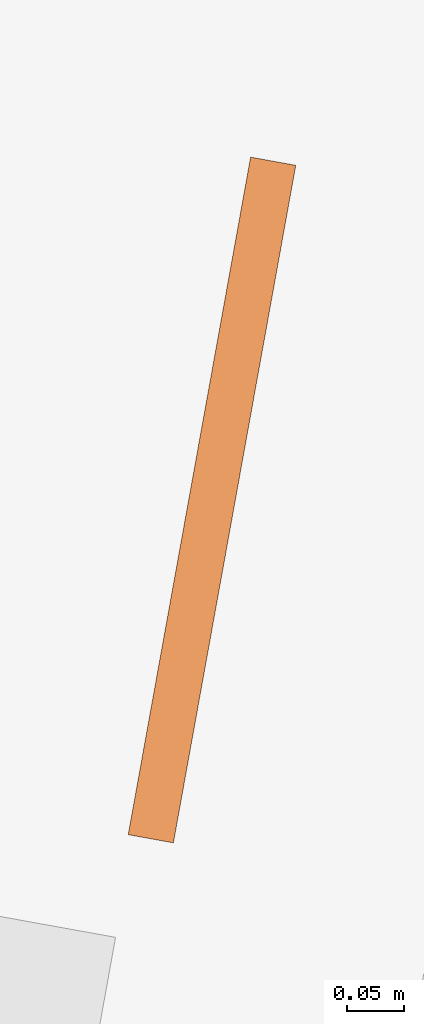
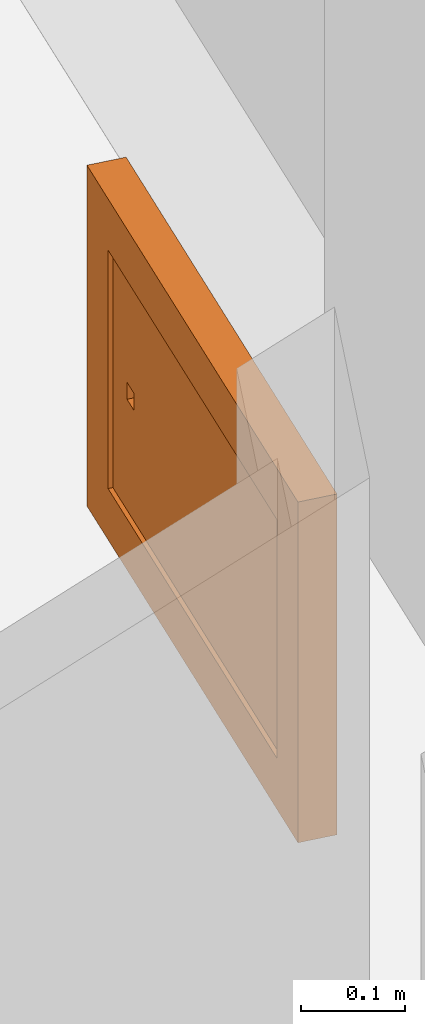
# One storey, part 52 of 52: 1 proxy.
"""IFC2X3 building model written with IfcOpenShell, lengths in metres."""

from ifc_helpers import new_model, entity, si_unit, converted_unit, derived_unit, money_unit, direction, frame, origin_with_axes, place, context, subcontext, project, spatial, open_shell, faceted_brep, surface_model, material, type_object, element, save


model = new_model("IFC2X3")

# Units and contexts
model_context = context("Model", 3, precision=1e-05, world=origin_with_axes(), true_north=direction((0.0, 1.0)))
body_context = subcontext(model_context, "Body", "Model", "MODEL_VIEW")
ifc_project = project(units=[si_unit("LENGTHUNIT", "METRE"), si_unit("AREAUNIT", "SQUARE_METRE"), si_unit("VOLUMEUNIT", "CUBIC_METRE"), converted_unit("PLANEANGLEUNIT", "DEGREE", entity("IfcPlaneAngleMeasure", 0.0174532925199), si_unit("PLANEANGLEUNIT", "RADIAN"), dimensions=[0, 0, 0, 0, 0, 0, 0]), money_unit("CHF"), converted_unit("TIMEUNIT", "Year", entity("IfcTimeMeasure", 31556926.0), si_unit("TIMEUNIT", "SECOND"), dimensions=[0, 0, 1, 0, 0, 0, 0]), si_unit("MASSUNIT", "GRAM", prefix="KILO"), si_unit("THERMODYNAMICTEMPERATUREUNIT", "DEGREE_CELSIUS"), si_unit("LUMINOUSINTENSITYUNIT", "LUMEN"), si_unit("ENERGYUNIT", "JOULE", prefix="MEGA"), derived_unit("THERMALCONDUCTANCEUNIT", [(si_unit("POWERUNIT", "WATT"), 1), (si_unit("LENGTHUNIT", "METRE"), -1), (si_unit("THERMODYNAMICTEMPERATUREUNIT", "KELVIN"), -1)]), derived_unit("SPECIFICHEATCAPACITYUNIT", [(si_unit("ENERGYUNIT", "JOULE"), 1), (si_unit("MASSUNIT", "GRAM", prefix="KILO"), -1), (si_unit("THERMODYNAMICTEMPERATUREUNIT", "KELVIN"), -1)]), derived_unit("MASSDENSITYUNIT", [(si_unit("MASSUNIT", "GRAM", prefix="KILO"), 1), (si_unit("VOLUMEUNIT", "CUBIC_METRE"), -1)])], contexts=[model_context])

# Site, building, storey
site_placement = place(None, frame((0.0, 0.0, 0.0), z_axis=(0.0, 0.0, 1.0), x_axis=(-0.177771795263, -0.984071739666, 0.0)))
site = spatial("IfcSite", under=ifc_project, at=site_placement, Name="Site", CompositionType="ELEMENT")
building_placement = place(site_placement, origin_with_axes())
building = spatial("IfcBuilding", under=site, at=building_placement, Name="Bâtiment", CompositionType="ELEMENT")
storey_placement = place(building_placement, frame((0.0, 0.0, 3.2), z_axis=(0.0, 0.0, 1.0), x_axis=(1.0, 0.0, 0.0)))
storey = spatial("IfcBuildingStorey", under=building, at=storey_placement, Name="R+1", CompositionType="ELEMENT", Elevation=3.2)

# Proxy
ifc_material = material(Name="Matériau de construction IFC")
building_element_proxy_type = type_object("IfcBuildingElementProxyType", Name="Trappe-visite_JM", PredefinedType="NOTDEFINED")
proxy_placement = place(storey_placement, frame((128.274841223, -156.897151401, 0.1), z_axis=(0.0, 0.0, 1.0), x_axis=(-1.0, 0.0, 0.0)))
element("IfcBuildingElementProxy", 1, at=proxy_placement, inside=storey, type_object=building_element_proxy_type, material=ifc_material, Name="trappe clapet-CF", context=body_context, shape_type="SurfaceModel", body=[
    surface_model("IfcShellBasedSurfaceModel", [(0.0, -0.035, 0.0), (0.0, -0.035, 0.4), (0.6, -0.035, 0.4), (0.6, -0.035, 0.0), (0.06, -0.035, 0.06), (0.54, -0.035, 0.06), (0.54, -0.035, 0.34), (0.06, -0.035, 0.34)], [open_shell([[[0, 1, 2, 3], [4, 5, 6, 7]]])]),
    faceted_brep([(0.0, 0.005, 0.0), (0.6, 0.005, 0.0), (0.6, -0.035, 0.0), (0.0, -0.035, 0.0), (0.0, 0.005, 0.4), (0.6, 0.005, 0.4), (0.06, 0.005, 0.06), (0.54, 0.005, 0.06), (0.54, 0.005, 0.34), (0.06, 0.005, 0.34), (0.6, -0.035, 0.4), (0.0, -0.035, 0.4), (0.06, -0.035, 0.06), (0.06, -0.035, 0.34), (0.54, -0.035, 0.34), (0.54, -0.035, 0.06)], [[[0, 1, 2, 3]], [[0, 4, 5, 1], [6, 7, 8, 9]], [[1, 5, 10, 2]], [[3, 2, 10, 11], [12, 13, 14, 15]], [[4, 0, 3, 11]], [[5, 4, 11, 10]], [[7, 6, 12, 15]], [[8, 7, 15, 14]], [[9, 8, 14, 13]], [[6, 9, 13, 12]]]),
    faceted_brep([(0.54, 0.0, 0.06), (0.54, 0.0, 0.34), (0.54, -0.02, 0.34), (0.54, -0.02, 0.06), (0.06, 0.0, 0.06), (0.06, 0.0, 0.34), (0.5, 0.0, 0.19), (0.5, 0.0, 0.21), (0.48, 0.0, 0.21), (0.48, 0.0, 0.19), (0.06, -0.02, 0.34), (0.06, -0.02, 0.06), (0.5, -0.02, 0.19), (0.48, -0.02, 0.19), (0.48, -0.02, 0.21), (0.5, -0.02, 0.21)], [[[0, 1, 2, 3]], [[0, 4, 5, 1], [6, 7, 8, 9]], [[1, 5, 10, 2]], [[3, 2, 10, 11], [12, 13, 14, 15]], [[4, 0, 3, 11]], [[5, 4, 11, 10]], [[7, 6, 12, 15]], [[8, 7, 15, 14]], [[9, 8, 14, 13]], [[6, 9, 13, 12]]]),
])

save(model, "model.ifc")
